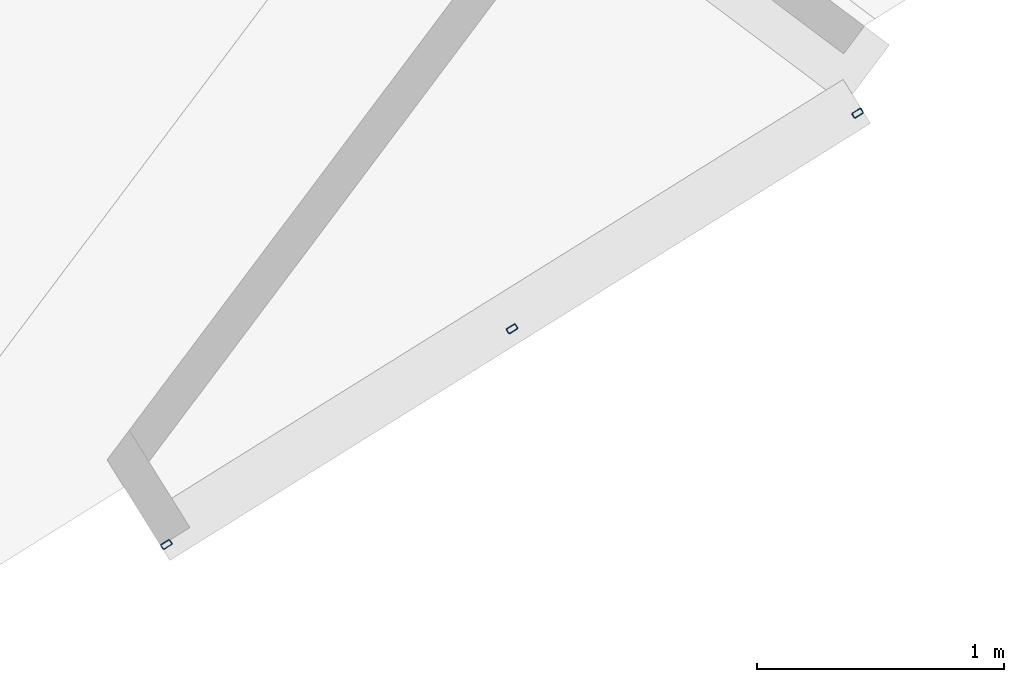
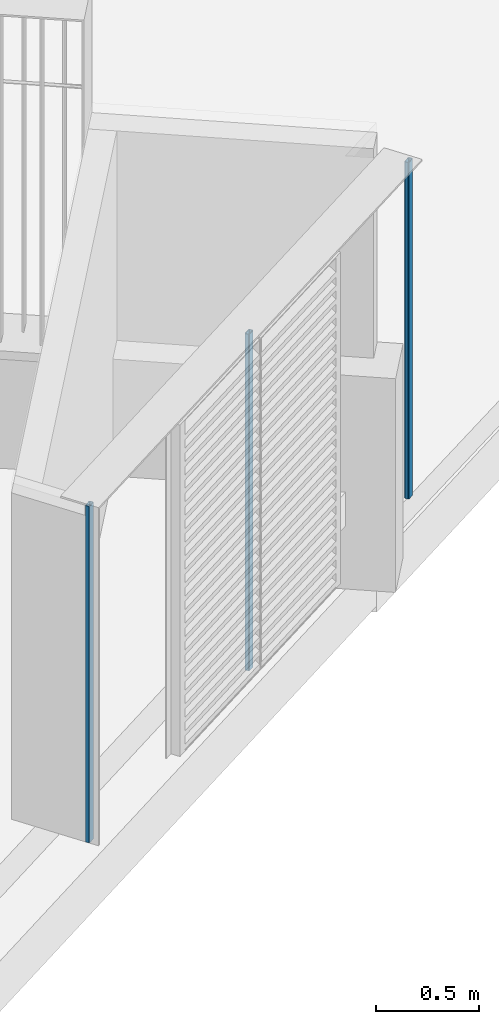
# One storey, part 2 of 33: 3 columns.
"""IFC2X3 building model written with IfcOpenShell, lengths in metres."""

from ifc_helpers import new_model, entity, si_unit, converted_unit, derived_unit, direction, frame, frame_2d, origin, place, context, subcontext, project, spatial, polyline, circle_curve, parameter, trimmed, segment, composite_curve, outline, extrude, source, transform, mapped, material, type_object, type_shapes, element, save


model = new_model("IFC2X3")

# Units and contexts
model_context = context("Model", 3, precision=1e-05, world=origin(), true_north=direction((6.123031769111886e-17, 1.0)))
body_context = subcontext(model_context, "Body", "Model", "MODEL_VIEW")
ifc_project = project(units=[si_unit("LENGTHUNIT", "METRE"), si_unit("AREAUNIT", "SQUARE_METRE"), si_unit("VOLUMEUNIT", "CUBIC_METRE"), converted_unit("PLANEANGLEUNIT", "DEGREE", entity("IfcRatioMeasure", 0.017453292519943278), si_unit("PLANEANGLEUNIT", "RADIAN"), dimensions=[0, 0, 0, 0, 0, 0, 0]), si_unit("MASSUNIT", "GRAM", prefix="KILO"), derived_unit("MASSDENSITYUNIT", [(si_unit("MASSUNIT", "GRAM", prefix="KILO"), 1), (si_unit("LENGTHUNIT", "METRE"), -3)]), derived_unit("IONCONCENTRATIONUNIT", [(si_unit("MASSUNIT", "GRAM", prefix="KILO"), 1), (si_unit("LENGTHUNIT", "METRE"), -3)]), derived_unit("MOMENTOFINERTIAUNIT", [(si_unit("LENGTHUNIT", "METRE"), 4)]), si_unit("TIMEUNIT", "SECOND"), si_unit("FREQUENCYUNIT", "HERTZ"), si_unit("THERMODYNAMICTEMPERATUREUNIT", "DEGREE_CELSIUS"), derived_unit("THERMALTRANSMITTANCEUNIT", [(si_unit("MASSUNIT", "GRAM", prefix="KILO"), 1), (si_unit("THERMODYNAMICTEMPERATUREUNIT", "KELVIN"), -1), (si_unit("TIMEUNIT", "SECOND"), -3)]), derived_unit("THERMALCONDUCTANCEUNIT", [(si_unit("MASSUNIT", "GRAM", prefix="KILO"), 1), (si_unit("THERMODYNAMICTEMPERATUREUNIT", "KELVIN"), -1), (si_unit("TIMEUNIT", "SECOND"), -3), (si_unit("LENGTHUNIT", "METRE"), 1)]), derived_unit("VOLUMETRICFLOWRATEUNIT", [(si_unit("LENGTHUNIT", "METRE"), 3), (si_unit("TIMEUNIT", "SECOND"), -1)]), derived_unit("MASSFLOWRATEUNIT", [(si_unit("MASSUNIT", "GRAM", prefix="KILO"), 1), (si_unit("TIMEUNIT", "SECOND"), -1)]), derived_unit("ROTATIONALFREQUENCYUNIT", [(si_unit("TIMEUNIT", "SECOND"), -1)]), si_unit("ELECTRICCURRENTUNIT", "AMPERE"), si_unit("ELECTRICVOLTAGEUNIT", "VOLT"), si_unit("POWERUNIT", "WATT"), si_unit("FORCEUNIT", "NEWTON", prefix="KILO"), si_unit("ILLUMINANCEUNIT", "LUX"), si_unit("LUMINOUSFLUXUNIT", "LUMEN"), si_unit("LUMINOUSINTENSITYUNIT", "CANDELA"), derived_unit("USERDEFINED", [(si_unit("MASSUNIT", "GRAM", prefix="KILO"), -1), (si_unit("LENGTHUNIT", "METRE"), -2), (si_unit("TIMEUNIT", "SECOND"), 3), (si_unit("LUMINOUSFLUXUNIT", "LUMEN"), 1)]), derived_unit("USERDEFINED", [(si_unit("MASSUNIT", "GRAM", prefix="KILO"), 1), (si_unit("TIMEUNIT", "SECOND"), -3), (si_unit("LENGTHUNIT", "METRE"), 3), (si_unit("ELECTRICCURRENTUNIT", "AMPERE"), -2)]), derived_unit("SOUNDPOWERUNIT", [(si_unit("MASSUNIT", "GRAM", prefix="KILO"), 1), (si_unit("TIMEUNIT", "SECOND"), -3), (si_unit("LENGTHUNIT", "METRE"), 2)]), derived_unit("SOUNDPRESSUREUNIT", [(si_unit("MASSUNIT", "GRAM", prefix="KILO"), 1), (si_unit("LENGTHUNIT", "METRE"), -1), (si_unit("TIMEUNIT", "SECOND"), -2)]), derived_unit("LINEARVELOCITYUNIT", [(si_unit("LENGTHUNIT", "METRE"), 1), (si_unit("TIMEUNIT", "SECOND"), -1)]), si_unit("PRESSUREUNIT", "PASCAL"), derived_unit("USERDEFINED", [(si_unit("MASSUNIT", "GRAM", prefix="KILO"), 1), (si_unit("LENGTHUNIT", "METRE"), -2), (si_unit("TIMEUNIT", "SECOND"), -2)]), derived_unit("LINEARFORCEUNIT", [(si_unit("MASSUNIT", "GRAM", prefix="KILO"), 1), (si_unit("TIMEUNIT", "SECOND"), -2)]), derived_unit("PLANARFORCEUNIT", [(si_unit("MASSUNIT", "GRAM", prefix="KILO"), 1), (si_unit("LENGTHUNIT", "METRE"), -1), (si_unit("TIMEUNIT", "SECOND"), -2)]), derived_unit("SPECIFICHEATCAPACITYUNIT", [(si_unit("THERMODYNAMICTEMPERATUREUNIT", "KELVIN"), -1), (si_unit("LENGTHUNIT", "METRE"), 2), (si_unit("TIMEUNIT", "SECOND"), -2)]), derived_unit("HEATINGVALUEUNIT", [(si_unit("LENGTHUNIT", "METRE"), 2), (si_unit("TIMEUNIT", "SECOND"), -2)]), derived_unit("VAPORPERMEABILITYUNIT", [(si_unit("LENGTHUNIT", "METRE"), -1), (si_unit("TIMEUNIT", "SECOND"), 1)]), derived_unit("DYNAMICVISCOSITYUNIT", [(si_unit("MASSUNIT", "GRAM", prefix="KILO"), 1), (si_unit("TIMEUNIT", "SECOND"), -1), (si_unit("LENGTHUNIT", "METRE"), -1)]), derived_unit("THERMALEXPANSIONCOEFFICIENTUNIT", [(si_unit("THERMODYNAMICTEMPERATUREUNIT", "KELVIN"), -1)]), derived_unit("MODULUSOFELASTICITYUNIT", [(si_unit("MASSUNIT", "GRAM", prefix="KILO"), 1), (si_unit("LENGTHUNIT", "METRE"), -1), (si_unit("TIMEUNIT", "SECOND"), -2)]), derived_unit("ISOTHERMALMOISTURECAPACITYUNIT", [(si_unit("LENGTHUNIT", "METRE"), 3), (si_unit("MASSUNIT", "GRAM", prefix="KILO"), -1)]), derived_unit("MOISTUREDIFFUSIVITYUNIT", [(si_unit("TIMEUNIT", "SECOND"), -1), (si_unit("LENGTHUNIT", "METRE"), 2)])], contexts=[model_context])

# Site, building, storey
site_placement = place(None, origin())
site = spatial("IfcSite", under=ifc_project, at=site_placement, Name="Superficie", CompositionType="ELEMENT")
building_placement = place(site_placement, frame((0.0, 0.0, 235.0), z_axis=(0.0, 0.0, 1.0), x_axis=(-0.7996477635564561, 0.6004693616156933, 0.0)))
building = spatial("IfcBuilding", under=site, at=building_placement, CompositionType="ELEMENT")
storey_placement = place(building_placement, origin())
storey = spatial("IfcBuildingStorey", under=building, at=storey_placement, Name="P0- Escola", CompositionType="ELEMENT", Elevation=0.0)

# Columns
ifc_material = material(Name="Metal - Acero - 345 MPa")
column_type_1 = type_object("IfcColumnType", Name="STR- P- Acer- RHS- Rectangular- T1:45 x 25RHS", PredefinedType="COLUMN", material=ifc_material)
shared_shape_1 = source(origin(), body_context, "Body", "SweptSolid", [
    extrude(outline(composite_curve([segment(polyline([(-0.006500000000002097, -0.022499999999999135), (0.0065000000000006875, -0.022499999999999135)]), True, "CONTINUOUS"), segment(trimmed(circle_curve(frame_2d((0.0065000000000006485, -0.016500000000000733), x_axis=(-1.0, 0.0)), 0.005999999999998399), [parameter(90.00000000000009)], [parameter(180.00000000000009)], True, "PARAMETER"), True, "CONTINUOUS"), segment(polyline([(0.012499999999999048, -0.01650000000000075), (0.012499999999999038, 0.01650000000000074)]), True, "CONTINUOUS"), segment(trimmed(circle_curve(frame_2d((0.006499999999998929, 0.016500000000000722), x_axis=(-1.0, 0.0)), 0.006000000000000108), [parameter(179.99999999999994)], [parameter(269.99999999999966)], True, "PARAMETER"), True, "CONTINUOUS"), segment(polyline([(0.006499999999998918, 0.022500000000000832), (-0.006499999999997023, 0.022500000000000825)]), True, "CONTINUOUS"), segment(trimmed(circle_curve(frame_2d((-0.006499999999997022, 0.016499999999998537), x_axis=(-1.0, 0.0)), 0.0060000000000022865), [parameter(269.99999999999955)], [parameter(359.9999999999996)], True, "PARAMETER"), True, "CONTINUOUS"), segment(polyline([(-0.012499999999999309, 0.01649999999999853), (-0.012499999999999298, -0.01650000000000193)]), True, "CONTINUOUS"), segment(trimmed(circle_curve(frame_2d((-0.006500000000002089, -0.01650000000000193), x_axis=(-1.0, 0.0)), 0.005999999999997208), [parameter(359.99999999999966)], [parameter(89.99999999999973)], True, "PARAMETER"), True, "CONTINUOUS")], self_intersect=False), holes=[composite_curve([segment(trimmed(circle_curve(frame_2d((-0.006500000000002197, -0.01650000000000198), x_axis=(-1.0, 0.0)), 0.0029999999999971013), [parameter(0.0)], [parameter(90.00000000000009)], True, "PARAMETER"), False, "CONTINUOUS"), segment(polyline([(-0.009499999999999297, -0.01650000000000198), (-0.009499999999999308, 0.01650000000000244)]), True, "CONTINUOUS"), segment(trimmed(circle_curve(frame_2d((-0.006500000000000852, 0.016500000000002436), x_axis=(-1.0, 0.0)), 0.0029999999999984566), [parameter(269.9999999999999)], [parameter(1.0177774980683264e-13)], True, "PARAMETER"), False, "CONTINUOUS"), segment(polyline([(-0.006500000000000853, 0.019500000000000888), (0.006499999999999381, 0.019500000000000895)]), True, "CONTINUOUS"), segment(trimmed(circle_curve(frame_2d((0.006499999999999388, 0.0164999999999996), x_axis=(-1.0, 0.0)), 0.0030000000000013), [parameter(179.99999999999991)], [parameter(270.0)], True, "PARAMETER"), False, "CONTINUOUS"), segment(polyline([(0.009500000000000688, 0.01649999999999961), (0.009500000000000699, -0.016499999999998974)]), True, "CONTINUOUS"), segment(trimmed(circle_curve(frame_2d((0.006500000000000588, -0.016499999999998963), x_axis=(-1.0, 0.0)), 0.0030000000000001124), [parameter(90.00000000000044)], [parameter(180.00000000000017)], True, "PARAMETER"), False, "CONTINUOUS"), segment(polyline([(0.006500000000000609, -0.019499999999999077), (-0.006500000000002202, -0.019499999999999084)]), True, "CONTINUOUS")], self_intersect=False)]), frame((0.0, 0.0, -1.4249999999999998), z_axis=(0.0, 0.0, 1.0), x_axis=(-1.0, 0.0, 0.0)), (0.0, 0.0, 1.0), 1.9999999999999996),
])
type_shapes(column_type_1, [shared_shape_1])
for number, where, z_axis, x_axis, name in (
    (1, (0.5306327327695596, -10.325494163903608, 0.0), (0.0, 0.0, 1.0), (0.9327027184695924, -0.3606461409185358, 0.0), "STR- P- Acer- RHS- Rectangular- T1:45 x 25RHS"),
    (2, (-0.06532941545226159, -11.866787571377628, 0.0), (0.0, 0.0, 1.0), (0.9327027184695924, -0.3606461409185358, 0.0), "STR- P- Acer- RHS- Rectangular- T1:45 x 25RHS"),
):
    element("IfcColumn", number, at=place(storey_placement, frame(where, z_axis=z_axis, x_axis=x_axis)), inside=storey, type_object=column_type_1, material=ifc_material, Name=name, ObjectType="STR- P- Acer- RHS- Rectangular- T1:45 x 25RHS", context=body_context, shape_type="MappedRepresentation", body=[
        mapped(shared_shape_1, transform((0.0, 0.0, 0.0), scale=1.0)),
    ])
column_type_2 = type_object("IfcColumnType", Name="STR- P- Acer- RHS- Rectangular- T1:45 x 25RHS", PredefinedType="COLUMN", material=ifc_material)
shared_shape_2 = source(origin(), body_context, "Body", "SweptSolid", [
    extrude(outline(composite_curve([segment(trimmed(circle_curve(frame_2d((0.006500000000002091, -0.016500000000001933), x_axis=(1.0, 0.0)), 0.005999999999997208), [parameter(270.0000000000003)], [parameter(3.5622212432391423e-13)], True, "PARAMETER"), True, "CONTINUOUS"), segment(polyline([(0.0124999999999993, -0.01650000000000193), (0.0124999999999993, 0.01649999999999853)]), True, "CONTINUOUS"), segment(trimmed(circle_curve(frame_2d((0.006499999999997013, 0.016499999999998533), x_axis=(1.0, 0.0)), 0.0060000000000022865), [parameter(4.0711099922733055e-13)], [parameter(90.00000000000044)], True, "PARAMETER"), True, "CONTINUOUS"), segment(polyline([(0.006499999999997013, 0.02250000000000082), (-0.006499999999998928, 0.02250000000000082)]), True, "CONTINUOUS"), segment(trimmed(circle_curve(frame_2d((-0.006499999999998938, 0.016500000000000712), x_axis=(1.0, 0.0)), 0.006000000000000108), [parameter(90.00000000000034)], [parameter(180.00000000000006)], True, "PARAMETER"), True, "CONTINUOUS"), segment(polyline([(-0.012499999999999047, 0.01650000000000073), (-0.012499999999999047, -0.01650000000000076)]), True, "CONTINUOUS"), segment(trimmed(circle_curve(frame_2d((-0.006500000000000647, -0.016500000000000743), x_axis=(1.0, 0.0)), 0.005999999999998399), [parameter(179.99999999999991)], [parameter(269.9999999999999)], True, "PARAMETER"), True, "CONTINUOUS"), segment(polyline([(-0.006500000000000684, -0.022499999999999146), (0.0065000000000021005, -0.02249999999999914)]), True, "CONTINUOUS")], self_intersect=False), holes=[composite_curve([segment(polyline([(0.006500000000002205, -0.019499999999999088), (-0.006500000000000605, -0.019499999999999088)]), True, "CONTINUOUS"), segment(trimmed(circle_curve(frame_2d((-0.006500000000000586, -0.016499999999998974), x_axis=(1.0, 0.0)), 0.0030000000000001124), [parameter(179.99999999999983)], [parameter(269.99999999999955)], True, "PARAMETER"), False, "CONTINUOUS"), segment(polyline([(-0.009500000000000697, -0.016499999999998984), (-0.009500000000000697, 0.016499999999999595)]), True, "CONTINUOUS"), segment(trimmed(circle_curve(frame_2d((-0.006499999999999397, 0.016499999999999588), x_axis=(1.0, 0.0)), 0.0030000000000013), [parameter(89.99999999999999)], [parameter(180.00000000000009)], True, "PARAMETER"), False, "CONTINUOUS"), segment(polyline([(-0.00649999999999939, 0.019500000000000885), (0.0065000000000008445, 0.019500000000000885)]), True, "CONTINUOUS"), segment(trimmed(circle_curve(frame_2d((0.006500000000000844, 0.016500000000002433), x_axis=(1.0, 0.0)), 0.0029999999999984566), [parameter(359.9999999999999)], [parameter(90.00000000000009)], True, "PARAMETER"), False, "CONTINUOUS"), segment(polyline([(0.009499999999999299, 0.016500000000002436), (0.009499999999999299, -0.016500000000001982)]), True, "CONTINUOUS"), segment(trimmed(circle_curve(frame_2d((0.0065000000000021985, -0.016500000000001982), x_axis=(1.0, 0.0)), 0.0029999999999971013), [parameter(269.9999999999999)], [parameter(0.0)], True, "PARAMETER"), False, "CONTINUOUS")], self_intersect=False)]), frame((0.0, 0.0, -1.4249999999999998)), (0.0, 0.0, 1.0), 1.9999999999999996),
])
type_shapes(column_type_2, [shared_shape_2])
column_placement = place(storey_placement, frame((1.1266060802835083, -8.784205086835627, 0.0), z_axis=(0.0, 0.0, 1.0), x_axis=(0.9327027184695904, -0.36064614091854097, 0.0)))
element("IfcColumn", 3, at=column_placement, inside=storey, type_object=column_type_2, material=ifc_material, Name="STR- P- Acer- RHS- Rectangular- T1:45 x 25RHS", ObjectType="STR- P- Acer- RHS- Rectangular- T1:45 x 25RHS", context=body_context, shape_type="MappedRepresentation", body=[
    mapped(shared_shape_2, transform((0.0, 0.0, 0.0), scale=1.0)),
])

save(model, "model.ifc")
